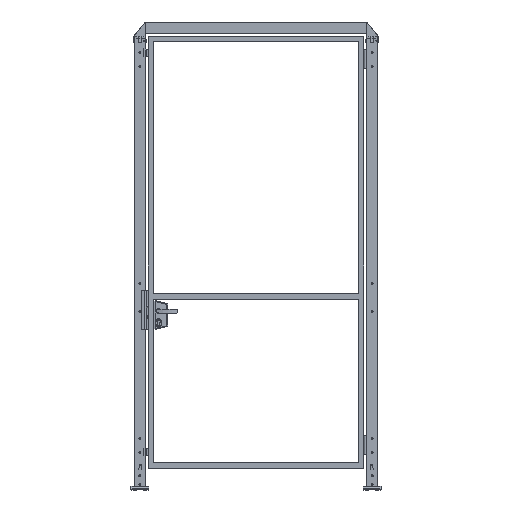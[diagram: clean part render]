
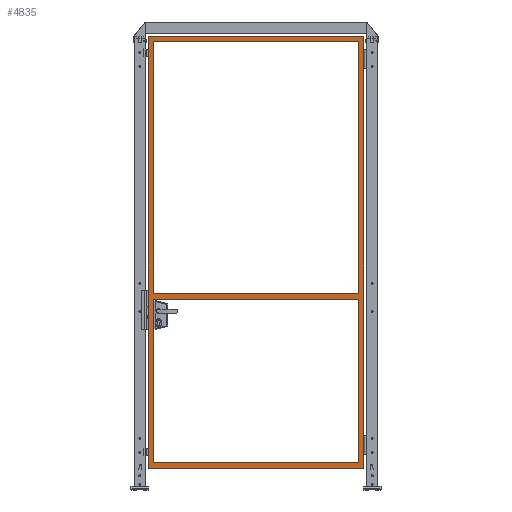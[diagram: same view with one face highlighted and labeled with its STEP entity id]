
A CAD part, top view. The second image highlights one B-rep face of the part: STEP entity #4835.
In plain terms, the highlighted planar face has unit normal (0, 0, 1).
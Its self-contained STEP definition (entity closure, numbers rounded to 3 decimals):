
#4835=ADVANCED_FACE('',(#9902,#9903,#9904),#9905,.F.);
#9902=FACE_BOUND('',#18248,.T.);
#9903=FACE_OUTER_BOUND('',#18249,.T.);
#9904=FACE_BOUND('',#18250,.T.);
#9905=PLANE('',#18251);
#18248=EDGE_LOOP('',(#32512,#32513,#32514,#32515));
#18249=EDGE_LOOP('',(#32516,#32517,#32518,#32519));
#18250=EDGE_LOOP('',(#32520,#32521,#32522,#32523));
#18251=AXIS2_PLACEMENT_3D('',#32524,#32525,#32526);
#32512=ORIENTED_EDGE('',*,*,#38409,.F.);
#32513=ORIENTED_EDGE('',*,*,#38415,.T.);
#32514=ORIENTED_EDGE('',*,*,#38437,.T.);
#32515=ORIENTED_EDGE('',*,*,#38442,.F.);
#32516=ORIENTED_EDGE('',*,*,#38453,.F.);
#32517=ORIENTED_EDGE('',*,*,#38447,.F.);
#32518=ORIENTED_EDGE('',*,*,#38417,.F.);
#32519=ORIENTED_EDGE('',*,*,#38451,.F.);
#32520=ORIENTED_EDGE('',*,*,#38439,.F.);
#32521=ORIENTED_EDGE('',*,*,#38434,.F.);
#32522=ORIENTED_EDGE('',*,*,#38445,.T.);
#32523=ORIENTED_EDGE('',*,*,#38454,.T.);
#32524=CARTESIAN_POINT('',(615.0,135.0,15.0));
#32525=DIRECTION('',(0.,0.0,-1.0));
#32526=DIRECTION('',(-1.0,0.0,0.));
#38409=EDGE_CURVE('',#47292,#47295,#47296,.T.);
#38415=EDGE_CURVE('',#47292,#47303,#47305,.T.);
#38417=EDGE_CURVE('',#47307,#47308,#47309,.T.);
#38434=EDGE_CURVE('',#47335,#47333,#47337,.T.);
#38437=EDGE_CURVE('',#47303,#47339,#47341,.T.);
#38439=EDGE_CURVE('',#47333,#47343,#47344,.T.);
#38442=EDGE_CURVE('',#47295,#47339,#47347,.T.);
#38445=EDGE_CURVE('',#47335,#47349,#47351,.T.);
#38447=EDGE_CURVE('',#47308,#47353,#47354,.T.);
#38451=EDGE_CURVE('',#47357,#47307,#47359,.T.);
#38453=EDGE_CURVE('',#47353,#47357,#47361,.T.);
#38454=EDGE_CURVE('',#47349,#47343,#47362,.T.);
#47292=VERTEX_POINT('',#61278);
#47295=VERTEX_POINT('',#61282);
#47296=LINE('',#61283,#61284);
#47303=VERTEX_POINT('',#61294);
#47305=LINE('',#61297,#61298);
#47307=VERTEX_POINT('',#61300);
#47308=VERTEX_POINT('',#61301);
#47309=LINE('',#61302,#61303);
#47333=VERTEX_POINT('',#61339);
#47335=VERTEX_POINT('',#61342);
#47337=LINE('',#61345,#61346);
#47339=VERTEX_POINT('',#61348);
#47341=LINE('',#61351,#61352);
#47343=VERTEX_POINT('',#61354);
#47344=LINE('',#61355,#61356);
#47347=LINE('',#61360,#61361);
#47349=VERTEX_POINT('',#61363);
#47351=LINE('',#61366,#61367);
#47353=VERTEX_POINT('',#61369);
#47354=LINE('',#61370,#61371);
#47357=VERTEX_POINT('',#61375);
#47359=LINE('',#61378,#61379);
#47361=LINE('',#61381,#61382);
#47362=LINE('',#61383,#61384);
#61278=CARTESIAN_POINT('',(1185.0,2490.0,15.));
#61282=CARTESIAN_POINT('',(45.,2490.0,15.0));
#61283=CARTESIAN_POINT('',(615.0,2490.0,15.0));
#61284=VECTOR('',#67665,1.0);
#61294=CARTESIAN_POINT('',(1185.0,1090.0,15.));
#61297=CARTESIAN_POINT('',(1185.0,1320.0,15.));
#61298=VECTOR('',#67670,1.0);
#61300=CARTESIAN_POINT('',(15.0,120.0,15.0));
#61301=CARTESIAN_POINT('',(15.,2520.0,15.0));
#61302=CARTESIAN_POINT('',(15.0,135.0,15.0));
#61303=VECTOR('',#67671,1.0);
#61339=CARTESIAN_POINT('',(45.,1060.0,15.0));
#61342=CARTESIAN_POINT('',(1185.0,1060.0,15.));
#61345=CARTESIAN_POINT('',(615.0,1060.0,15.0));
#61346=VECTOR('',#67686,1.0);
#61348=CARTESIAN_POINT('',(45.,1090.0,15.0));
#61351=CARTESIAN_POINT('',(615.0,1090.0,15.0));
#61352=VECTOR('',#67688,1.0);
#61354=CARTESIAN_POINT('',(45.0,150.0,15.0));
#61355=CARTESIAN_POINT('',(45.,1320.0,15.0));
#61356=VECTOR('',#67689,1.0);
#61360=CARTESIAN_POINT('',(45.,1320.0,15.0));
#61361=VECTOR('',#67691,1.0);
#61363=CARTESIAN_POINT('',(1185.0,150.0,15.));
#61366=CARTESIAN_POINT('',(1185.0,1320.0,15.));
#61367=VECTOR('',#67693,1.0);
#61369=CARTESIAN_POINT('',(1215.0,2520.0,15.));
#61370=CARTESIAN_POINT('',(30.,2520.0,15.0));
#61371=VECTOR('',#67694,1.0);
#61375=CARTESIAN_POINT('',(1215.0,120.0,15.));
#61378=CARTESIAN_POINT('',(615.0,120.0,15.0));
#61379=VECTOR('',#67697,1.0);
#61381=CARTESIAN_POINT('',(1215.0,1320.0,15.));
#61382=VECTOR('',#67698,1.0);
#61383=CARTESIAN_POINT('',(615.0,150.0,15.0));
#61384=VECTOR('',#67699,1.0);
#67665=DIRECTION('',(-1.0,0.0,0.));
#67670=DIRECTION('',(0.,-1.0,0.));
#67671=DIRECTION('',(0.0,1.0,0.0));
#67686=DIRECTION('',(-1.0,0.0,0.));
#67688=DIRECTION('',(-1.0,0.0,0.));
#67689=DIRECTION('',(0.,-1.0,0.));
#67691=DIRECTION('',(0.,-1.0,0.));
#67693=DIRECTION('',(0.,-1.0,0.));
#67694=DIRECTION('',(1.0,0.,0.));
#67697=DIRECTION('',(-1.0,0.0,0.));
#67698=DIRECTION('',(0.,-1.0,0.));
#67699=DIRECTION('',(-1.0,0.0,0.));
